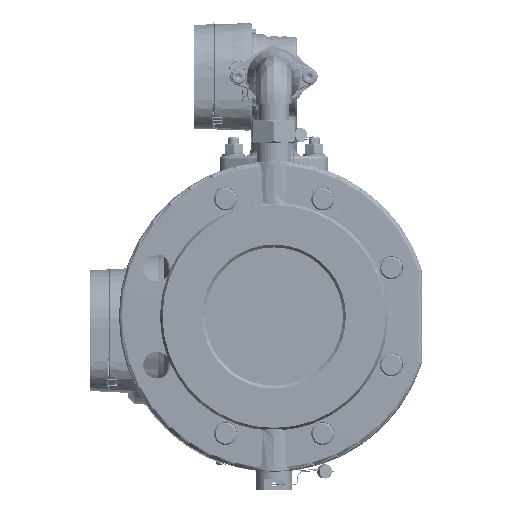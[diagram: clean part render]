
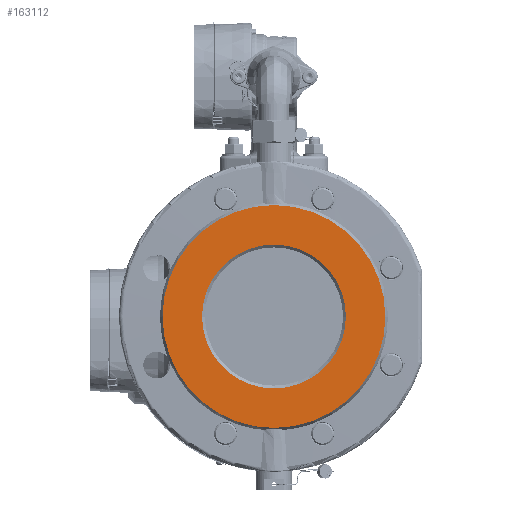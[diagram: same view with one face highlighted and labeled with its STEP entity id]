
A CAD part, left-side view. The second image highlights one B-rep face of the part: STEP entity #163112.
In plain terms, the highlighted planar face has unit normal (-1, 0, 0).
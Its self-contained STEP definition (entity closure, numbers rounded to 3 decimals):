
#562 = FACE_BOUND ( 'NONE', #135590, .T. ) ;
#5172 = DIRECTION ( 'NONE',  ( 0., 1., 0. ) ) ;
#7527 = CIRCLE ( 'NONE', #313808, 79. ) ;
#7736 = ORIENTED_EDGE ( 'NONE', *, *, #176453, .F. ) ;
#40363 = EDGE_CURVE ( 'NONE', #298269, #277765, #7527, .T. ) ;
#42883 = CARTESIAN_POINT ( 'NONE',  ( -125., 79., 0. ) ) ;
#51592 = CARTESIAN_POINT ( 'NONE',  ( -125., 0., 0. ) ) ;
#57816 = AXIS2_PLACEMENT_3D ( 'NONE', #292925, #190734, #320359 ) ;
#59462 = CARTESIAN_POINT ( 'NONE',  ( -125., 0., 0. ) ) ;
#61995 = ORIENTED_EDGE ( 'NONE', *, *, #288914, .F. ) ;
#75390 = FACE_OUTER_BOUND ( 'NONE', #241952, .T. ) ;
#77240 = CIRCLE ( 'NONE', #118752, 51. ) ;
#84911 = DIRECTION ( 'NONE',  ( 0., 0., 1. ) ) ;
#89118 = VERTEX_POINT ( 'NONE', #115056 ) ;
#104986 = CARTESIAN_POINT ( 'NONE',  ( -125., 0., 51. ) ) ;
#105457 = AXIS2_PLACEMENT_3D ( 'NONE', #169901, #205276, #5172 ) ;
#109811 = DIRECTION ( 'NONE',  ( 0., 0., 1. ) ) ;
#115056 = CARTESIAN_POINT ( 'NONE',  ( -125., 0., -51. ) ) ;
#118752 = AXIS2_PLACEMENT_3D ( 'NONE', #181051, #307679, #84911 ) ;
#126371 = DIRECTION ( 'NONE',  ( 1., 0., 0. ) ) ;
#127957 = DIRECTION ( 'NONE',  ( 0., 1., 0. ) ) ;
#135590 = EDGE_LOOP ( 'NONE', ( #7736, #61995 ) ) ;
#140255 = ORIENTED_EDGE ( 'NONE', *, *, #220071, .F. ) ;
#156342 = PLANE ( 'NONE',  #105457 ) ;
#163112 = ADVANCED_FACE ( 'NONE', ( #562, #75390 ), #156342, .F. ) ;
#169901 = CARTESIAN_POINT ( 'NONE',  ( -125., 0., 0. ) ) ;
#172051 = CIRCLE ( 'NONE', #57816, 79. ) ;
#176453 = EDGE_CURVE ( 'NONE', #192046, #89118, #77240, .T. ) ;
#181051 = CARTESIAN_POINT ( 'NONE',  ( -125., 0., 0. ) ) ;
#190734 = DIRECTION ( 'NONE',  ( 1., 0., 0. ) ) ;
#192046 = VERTEX_POINT ( 'NONE', #104986 ) ;
#205276 = DIRECTION ( 'NONE',  ( 1., 0., 0. ) ) ;
#220071 = EDGE_CURVE ( 'NONE', #277765, #298269, #172051, .T. ) ;
#229755 = ORIENTED_EDGE ( 'NONE', *, *, #40363, .F. ) ;
#230300 = DIRECTION ( 'NONE',  ( -1., 0., 0. ) ) ;
#241952 = EDGE_LOOP ( 'NONE', ( #140255, #229755 ) ) ;
#253838 = AXIS2_PLACEMENT_3D ( 'NONE', #59462, #230300, #109811 ) ;
#274711 = CIRCLE ( 'NONE', #253838, 51. ) ;
#277765 = VERTEX_POINT ( 'NONE', #42883 ) ;
#288914 = EDGE_CURVE ( 'NONE', #89118, #192046, #274711, .T. ) ;
#292925 = CARTESIAN_POINT ( 'NONE',  ( -125., 0., 0. ) ) ;
#298269 = VERTEX_POINT ( 'NONE', #312730 ) ;
#307679 = DIRECTION ( 'NONE',  ( -1., 0., 0. ) ) ;
#312730 = CARTESIAN_POINT ( 'NONE',  ( -125., -79., 0. ) ) ;
#313808 = AXIS2_PLACEMENT_3D ( 'NONE', #51592, #126371, #127957 ) ;
#320359 = DIRECTION ( 'NONE',  ( 0., 1., 0. ) ) ;
